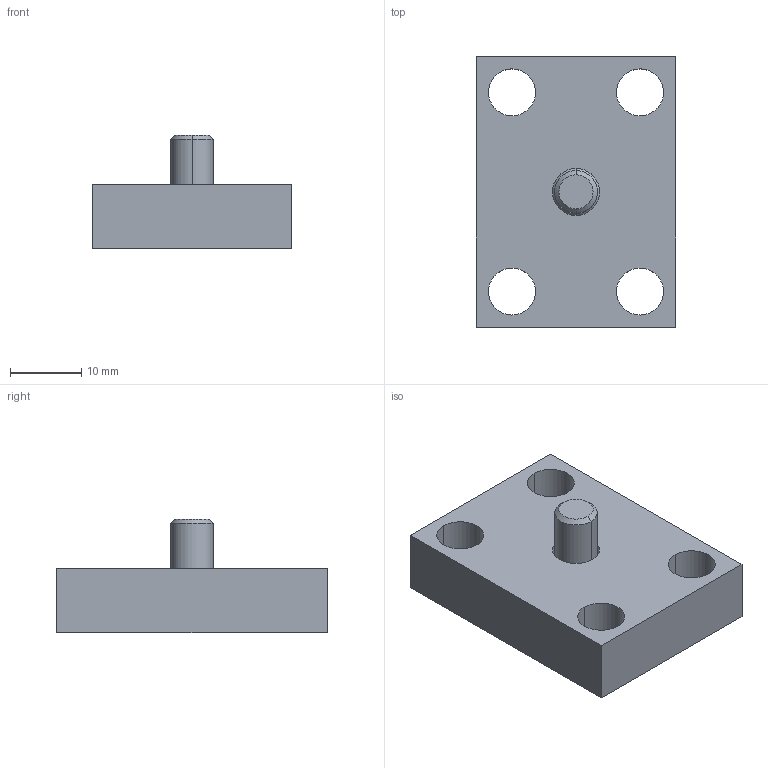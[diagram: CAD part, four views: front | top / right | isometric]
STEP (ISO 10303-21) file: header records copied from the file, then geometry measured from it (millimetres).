
FILE_DESCRIPTION(/* description */ (''),/* implementation_level */ '2;1');
FILE_NAME(/* name */ '3d_hm-19_04132_r00.stp',/* time_stamp */ '2011-01-10T14:14:42+09:00',/* author */ ('MISUMI'),/* organization */ (''),/* preprocessor_version */ 'ST-DEVELOPER v11',/* originating_system */ 'UGS - NX 5.0',/* authorisation */ '');
FILE_SCHEMA (('CONFIG_CONTROL_DESIGN'));
Length unit declared in the file: millimetre
Products named in the file (1): 3d_hm-19_04132_r00
Bounding box: 28 x 38 x 16 mm (x, y, z)
Volume: 8461 mm3; surface area: 4424.5 mm2
Topology: 2 solids, 2 shells, 33 faces, 78 edges, 50 vertices
Faces by surface type: plane 15, cylinder 12, cone 6
Entity records: 1058 total; most frequent: DIRECTION 176, CARTESIAN_POINT 162, ORIENTED_EDGE 156, EDGE_CURVE 78, AXIS2_PLACEMENT_3D 64, VERTEX_POINT 50, LINE 48, VECTOR 48
